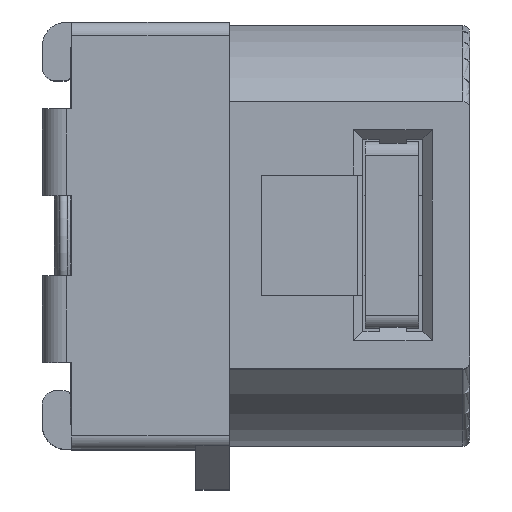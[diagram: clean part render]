
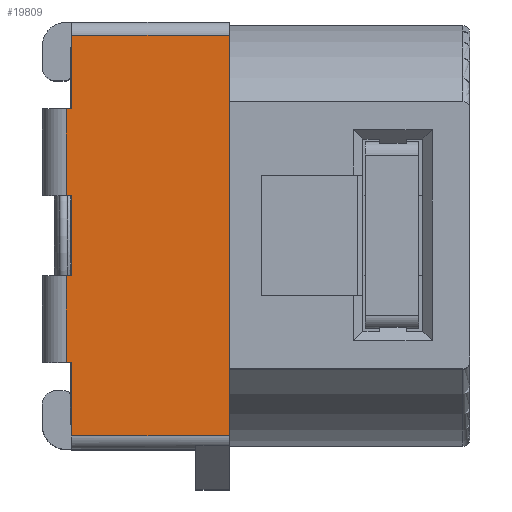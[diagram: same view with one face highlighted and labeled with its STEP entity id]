
A CAD part, top view. The second image highlights one B-rep face of the part: STEP entity #19809.
In plain terms, the highlighted planar face has unit normal (0, 0, 1).
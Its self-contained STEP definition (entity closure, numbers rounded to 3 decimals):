
#2543=FACE_OUTER_BOUND('',#3572,.T.);
#3572=EDGE_LOOP('',(#17269,#17270,#17271,#17272,#17273,#17274,#17275,#17276,
#17277,#17278,#17279,#17280,#17281,#17282));
#5639=LINE('',#31282,#7879);
#5667=LINE('',#31360,#7907);
#5672=LINE('',#31382,#7912);
#5695=LINE('',#31449,#7935);
#5696=LINE('',#31452,#7936);
#5697=LINE('',#31454,#7937);
#5698=LINE('',#31456,#7938);
#5699=LINE('',#31457,#7939);
#5700=LINE('',#31459,#7940);
#5701=LINE('',#31460,#7941);
#5702=LINE('',#31462,#7942);
#5703=LINE('',#31464,#7943);
#5704=LINE('',#31466,#7944);
#5705=LINE('',#31467,#7945);
#7879=VECTOR('',#25525,10.);
#7907=VECTOR('',#25599,10.);
#7912=VECTOR('',#25620,10.);
#7935=VECTOR('',#25689,10.);
#7936=VECTOR('',#25692,10.);
#7937=VECTOR('',#25693,10.);
#7938=VECTOR('',#25694,10.);
#7939=VECTOR('',#25695,10.);
#7940=VECTOR('',#25696,10.);
#7941=VECTOR('',#25697,10.);
#7942=VECTOR('',#25698,10.);
#7943=VECTOR('',#25699,10.);
#7944=VECTOR('',#25700,10.);
#7945=VECTOR('',#25701,10.);
#9734=VERTEX_POINT('',#31279);
#9735=VERTEX_POINT('',#31281);
#9761=VERTEX_POINT('',#31357);
#9762=VERTEX_POINT('',#31359);
#9770=VERTEX_POINT('',#31379);
#9771=VERTEX_POINT('',#31381);
#9792=VERTEX_POINT('',#31447);
#9793=VERTEX_POINT('',#31451);
#9794=VERTEX_POINT('',#31453);
#9795=VERTEX_POINT('',#31455);
#9796=VERTEX_POINT('',#31458);
#9797=VERTEX_POINT('',#31461);
#9798=VERTEX_POINT('',#31463);
#9799=VERTEX_POINT('',#31465);
#12277=EDGE_CURVE('',#9734,#9735,#5639,.T.);
#12316=EDGE_CURVE('',#9761,#9762,#5667,.T.);
#12327=EDGE_CURVE('',#9771,#9770,#5672,.T.);
#12361=EDGE_CURVE('',#9792,#9770,#5695,.T.);
#12362=EDGE_CURVE('',#9793,#9792,#5696,.T.);
#12363=EDGE_CURVE('',#9794,#9793,#5697,.T.);
#12364=EDGE_CURVE('',#9794,#9795,#5698,.T.);
#12365=EDGE_CURVE('',#9762,#9795,#5699,.T.);
#12366=EDGE_CURVE('',#9796,#9761,#5700,.T.);
#12367=EDGE_CURVE('',#9796,#9735,#5701,.T.);
#12368=EDGE_CURVE('',#9797,#9734,#5702,.T.);
#12369=EDGE_CURVE('',#9798,#9797,#5703,.T.);
#12370=EDGE_CURVE('',#9799,#9798,#5704,.T.);
#12371=EDGE_CURVE('',#9771,#9799,#5705,.T.);
#17269=ORIENTED_EDGE('',*,*,#12361,.F.);
#17270=ORIENTED_EDGE('',*,*,#12362,.F.);
#17271=ORIENTED_EDGE('',*,*,#12363,.F.);
#17272=ORIENTED_EDGE('',*,*,#12364,.T.);
#17273=ORIENTED_EDGE('',*,*,#12365,.F.);
#17274=ORIENTED_EDGE('',*,*,#12316,.F.);
#17275=ORIENTED_EDGE('',*,*,#12366,.F.);
#17276=ORIENTED_EDGE('',*,*,#12367,.T.);
#17277=ORIENTED_EDGE('',*,*,#12277,.F.);
#17278=ORIENTED_EDGE('',*,*,#12368,.F.);
#17279=ORIENTED_EDGE('',*,*,#12369,.F.);
#17280=ORIENTED_EDGE('',*,*,#12370,.F.);
#17281=ORIENTED_EDGE('',*,*,#12371,.F.);
#17282=ORIENTED_EDGE('',*,*,#12327,.T.);
#18894=PLANE('',#21185);
#19809=ADVANCED_FACE('',(#2543),#18894,.T.);
#21185=AXIS2_PLACEMENT_3D('',#31450,#25690,#25691);
#25525=DIRECTION('',(0.,-1.,0.));
#25599=DIRECTION('',(-1.,0.,0.));
#25620=DIRECTION('',(-1.,0.,0.));
#25689=DIRECTION('',(0.,1.,0.));
#25690=DIRECTION('center_axis',(0.,0.,1.));
#25691=DIRECTION('ref_axis',(0.,-1.,0.));
#25692=DIRECTION('',(-1.,0.,0.));
#25693=DIRECTION('',(0.,1.,0.));
#25694=DIRECTION('',(-1.,0.,0.));
#25695=DIRECTION('',(0.,1.,0.));
#25696=DIRECTION('',(0.,1.,0.));
#25697=DIRECTION('',(1.,0.,0.));
#25698=DIRECTION('',(0.,-1.,0.));
#25699=DIRECTION('',(0.,-1.,0.));
#25700=DIRECTION('',(1.,0.,0.));
#25701=DIRECTION('',(0.,1.,0.));
#31279=CARTESIAN_POINT('',(-4.8,-5.,8.));
#31281=CARTESIAN_POINT('',(-4.8,-7.5,8.));
#31282=CARTESIAN_POINT('',(-4.8,7.5,8.));
#31357=CARTESIAN_POINT('',(-10.7,-4.75,8.));
#31359=CARTESIAN_POINT('',(-10.9,-4.75,8.));
#31360=CARTESIAN_POINT('',(-10.75,-4.75,8.));
#31379=CARTESIAN_POINT('',(-10.9,4.75,8.));
#31381=CARTESIAN_POINT('',(-10.7,4.75,8.));
#31382=CARTESIAN_POINT('',(-10.7,4.75,8.));
#31447=CARTESIAN_POINT('',(-10.9,1.5,8.));
#31449=CARTESIAN_POINT('',(-10.9,5.286,8.));
#31450=CARTESIAN_POINT('Origin',(-6.05,7.5,8.));
#31451=CARTESIAN_POINT('',(-10.7,1.5,8.));
#31452=CARTESIAN_POINT('',(-10.7,1.5,8.));
#31453=CARTESIAN_POINT('',(-10.7,-1.5,8.));
#31454=CARTESIAN_POINT('',(-10.7,-7.5,8.));
#31455=CARTESIAN_POINT('',(-10.9,-1.5,8.));
#31456=CARTESIAN_POINT('',(-10.75,-1.5,8.));
#31457=CARTESIAN_POINT('',(-10.9,2.214,8.));
#31458=CARTESIAN_POINT('',(-10.7,-7.5,8.));
#31459=CARTESIAN_POINT('',(-10.7,-7.5,8.));
#31460=CARTESIAN_POINT('',(-6.05,-7.5,8.));
#31461=CARTESIAN_POINT('',(-4.8,5.,8.));
#31462=CARTESIAN_POINT('',(-4.8,7.5,8.));
#31463=CARTESIAN_POINT('',(-4.8,7.5,8.));
#31464=CARTESIAN_POINT('',(-4.8,7.5,8.));
#31465=CARTESIAN_POINT('',(-10.7,7.5,8.));
#31466=CARTESIAN_POINT('',(-6.05,7.5,8.));
#31467=CARTESIAN_POINT('',(-10.7,-7.5,8.));
